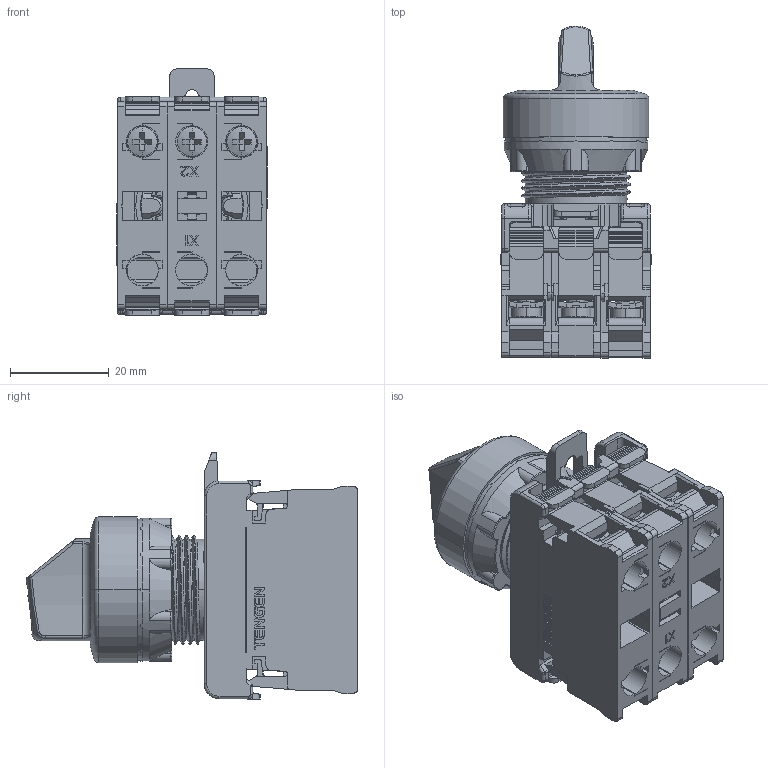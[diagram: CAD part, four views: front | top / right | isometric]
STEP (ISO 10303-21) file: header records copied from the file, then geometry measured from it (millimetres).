
FILE_DESCRIPTION (( 'STEP AP214' ), '1' );
FILE_NAME ('TGLA1-DX.stp', '2026-05-15T09:02:42', ( '' ), ( '' ), 'SwSTEP 2.0', 'SolidWorks 2024', '' );
FILE_SCHEMA (( 'AUTOMOTIVE_DESIGN' ));
Length unit declared in the file: millimetre
Products named in the file (1): TGLA1-DX
Bounding box: 30.5 x 67.12 x 49.8 mm (x, y, z)
Volume: 25921.2 mm3; surface area: 38229.4 mm2
Topology: 4 solids, 10 shells, 3227 faces, 9034 edges, 5843 vertices
Faces by surface type: plane 1844, cylinder 861, bspline 253, cone 175, torus 79, sphere 15
Entity records: 117401 total; most frequent: CARTESIAN_POINT 34968, ORIENTED_EDGE 18060, DIRECTION 16243, EDGE_CURVE 9030, LINE 5909, VECTOR 5909, VERTEX_POINT 5843, AXIS2_PLACEMENT_3D 5167
